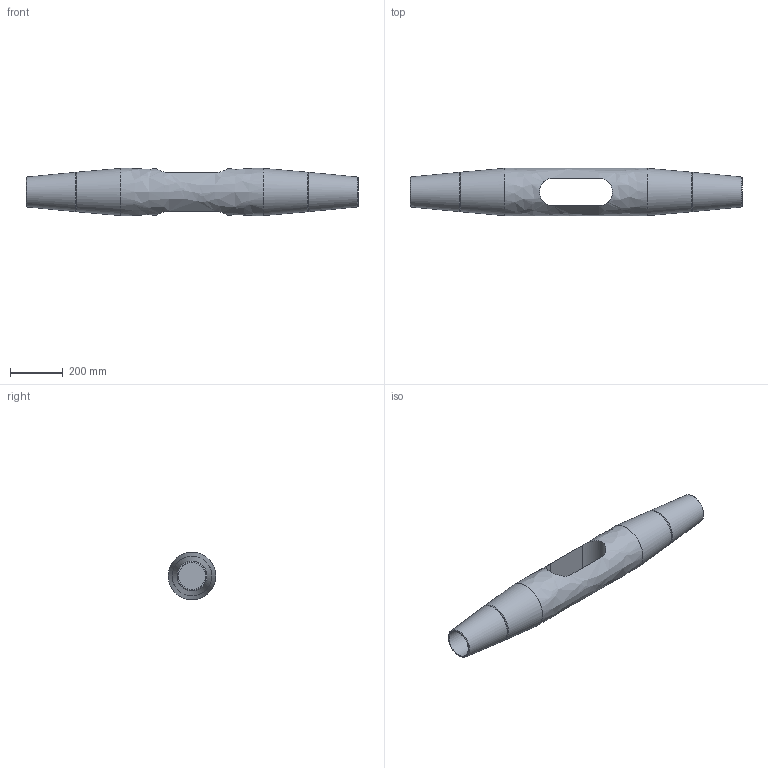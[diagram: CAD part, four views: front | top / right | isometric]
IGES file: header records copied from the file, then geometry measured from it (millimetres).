
Global section: file name: 520-100-KMF; native system: Autodesk Inventor 2016; preprocessor: unknown; author: Administrator; date: 20200702.132927; units: centimetre
Bounding box: 1264 x 180 x 179.98 mm (x, y, z)
Volume: 19400459.2 mm3; surface area: 801719.1 mm2
Topology: 1 solids, 1 shells, 21 faces, 53 edges, 36 vertices
Faces by surface type: bspline 21
